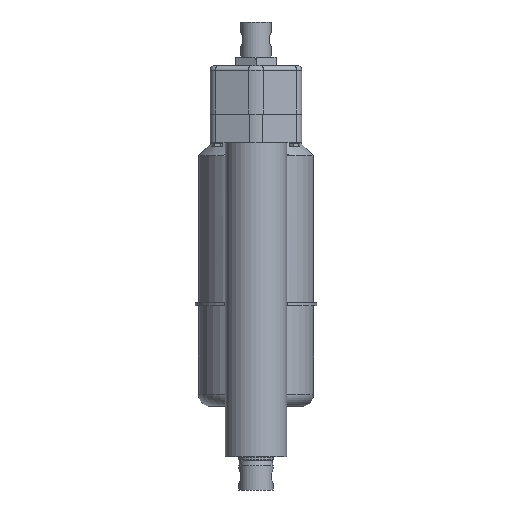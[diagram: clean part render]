
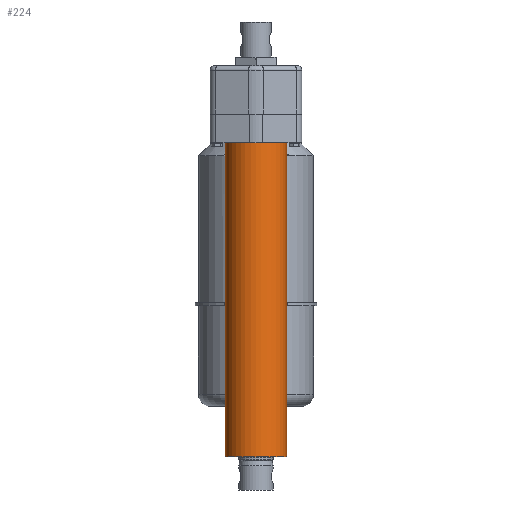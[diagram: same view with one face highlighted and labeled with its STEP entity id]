
A CAD part, front view. The second image highlights one B-rep face of the part: STEP entity #224.
In plain terms, the highlighted cylindrical face has radius 25.65 mm (diameter 51.3 mm), a full revolution.
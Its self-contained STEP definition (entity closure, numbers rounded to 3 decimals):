
#138 = EDGE_CURVE ( 'NONE', #1138, #1138, #1911, .T. ) ;
#179 = EDGE_CURVE ( 'NONE', #1158, #1158, #1957, .T. ) ;
#224 = ADVANCED_FACE ( 'NONE', ( #4064, #4065 ), #4058, .T. ) ;
#585 = AXIS2_PLACEMENT_3D ( 'NONE', #2758, #2766, #2767 ) ;
#610 = AXIS2_PLACEMENT_3D ( 'NONE', #2881, #2888, #2889 ) ;
#640 = AXIS2_PLACEMENT_3D ( 'NONE', #4678, #4684, #4683 ) ;
#1138 = VERTEX_POINT ( 'NONE', #1139 ) ;
#1139 = CARTESIAN_POINT ( 'NONE',  ( 25.65, 0., 0. ) ) ;
#1158 = VERTEX_POINT ( 'NONE', #1159 ) ;
#1159 = CARTESIAN_POINT ( 'NONE',  ( 25.65, 0., 261.3 ) ) ;
#1610 = ORIENTED_EDGE ( 'NONE', *, *, #179, .F. ) ;
#1621 = ORIENTED_EDGE ( 'NONE', *, *, #138, .F. ) ;
#1911 = CIRCLE ( 'NONE', #585, 25.65 ) ;
#1957 = CIRCLE ( 'NONE', #610, 25.65 ) ;
#2758 = CARTESIAN_POINT ( 'NONE',  ( 0., 0., 0. ) ) ;
#2766 = DIRECTION ( 'NONE',  ( 0., 0., -1. ) ) ;
#2767 = DIRECTION ( 'NONE',  ( 1., 0., 0. ) ) ;
#2881 = CARTESIAN_POINT ( 'NONE',  ( 0., 0., 261.3 ) ) ;
#2888 = DIRECTION ( 'NONE',  ( 0., 0., 1. ) ) ;
#2889 = DIRECTION ( 'NONE',  ( 1., 0., 0. ) ) ;
#3294 = EDGE_LOOP ( 'NONE', ( #1610 ) ) ;
#3299 = EDGE_LOOP ( 'NONE', ( #1621 ) ) ;
#4058 = CYLINDRICAL_SURFACE ( 'NONE', #640, 25.65 ) ;
#4064 = FACE_OUTER_BOUND ( 'NONE', #3299, .T. ) ;
#4065 = FACE_OUTER_BOUND ( 'NONE', #3294, .T. ) ;
#4678 = CARTESIAN_POINT ( 'NONE',  ( 0., 0., -72.549 ) ) ;
#4683 = DIRECTION ( 'NONE',  ( 1., 0., 0. ) ) ;
#4684 = DIRECTION ( 'NONE',  ( 0., 0., 1. ) ) ;
